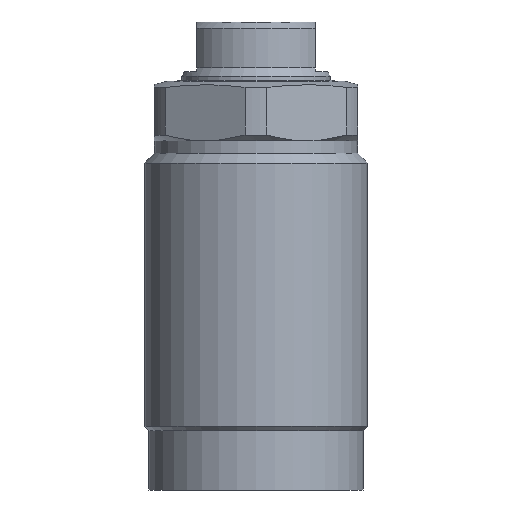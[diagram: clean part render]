
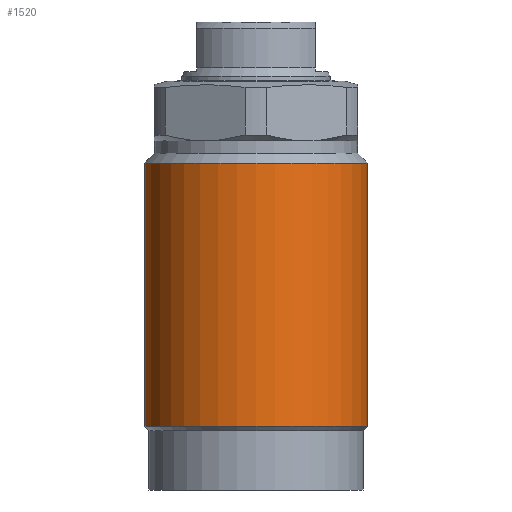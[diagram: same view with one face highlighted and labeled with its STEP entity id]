
A CAD part, front view. The second image highlights one B-rep face of the part: STEP entity #1520.
In plain terms, the highlighted cylindrical face has radius 22.5 mm (diameter 45 mm), a partial arc.
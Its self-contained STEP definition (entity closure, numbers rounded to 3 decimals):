
#1457=CARTESIAN_POINT('',(-22.5,0.0,-69.65));
#1458=VERTEX_POINT('',#1457);
#1466=CARTESIAN_POINT('',(22.5,0.0,-69.65));
#1467=VERTEX_POINT('',#1466);
#1474=CARTESIAN_POINT('',(0.0,0.0,-69.65));
#1475=DIRECTION('',(0.0,0.0,1.0));
#1476=DIRECTION('',(1.0,0.0,0.0));
#1477=AXIS2_PLACEMENT_3D('',#1474,#1475,#1476);
#1478=CIRCLE('',#1477,22.5);
#1479=EDGE_CURVE('no 2110',#1458,#1467,#1478,.T.);
#1489=CARTESIAN_POINT('',(-22.5,0.0,-16.5));
#1490=VERTEX_POINT('',#1489);
#1491=CARTESIAN_POINT('',(-22.5,0.0,-69.65));
#1492=DIRECTION('',(0.0,-0.0,1.0));
#1493=VECTOR('',#1492,1.0);
#1494=LINE('',#1491,#1493);
#1495=EDGE_CURVE('no 2120',#1458,#1490,#1494,.T.);
#1496=ORIENTED_EDGE('',*,*,#1495,.F.);
#1497=ORIENTED_EDGE('',*,*,#1479,.T.);
#1498=CARTESIAN_POINT('',(22.5,0.0,-16.5));
#1499=VERTEX_POINT('',#1498);
#1500=CARTESIAN_POINT('',(22.5,0.0,-69.65));
#1501=DIRECTION('',(0.0,0.0,1.0));
#1502=VECTOR('',#1501,1.0);
#1503=LINE('',#1500,#1502);
#1504=EDGE_CURVE('no 2128',#1467,#1499,#1503,.T.);
#1505=ORIENTED_EDGE('',*,*,#1504,.T.);
#1506=CARTESIAN_POINT('',(0.0,0.0,-16.5));
#1507=DIRECTION('',(0.0,0.0,1.0));
#1508=DIRECTION('',(1.0,0.0,0.0));
#1509=AXIS2_PLACEMENT_3D('',#1506,#1507,#1508);
#1510=CIRCLE('',#1509,22.5);
#1511=EDGE_CURVE('no 2132',#1490,#1499,#1510,.T.);
#1512=ORIENTED_EDGE('',*,*,#1511,.F.);
#1513=EDGE_LOOP('',(#1496,#1497,#1505,#1512));
#1514=FACE_OUTER_BOUND('',#1513,.T.);
#1515=CARTESIAN_POINT('',(0.0,0.0,5.219));
#1516=DIRECTION('',(0.0,0.0,1.0));
#1517=DIRECTION('',(0.0,1.0,0.0));
#1518=AXIS2_PLACEMENT_3D('',#1515,#1516,#1517);
#1519=CYLINDRICAL_SURFACE('',#1518,22.5);
#1520=ADVANCED_FACE('no 2113',(#1514),#1519,.T.);
